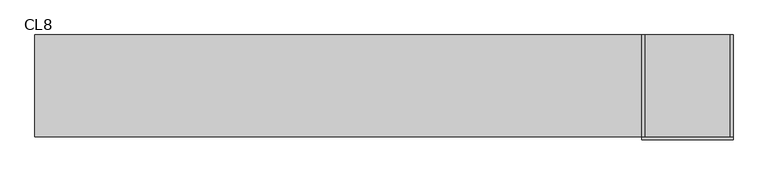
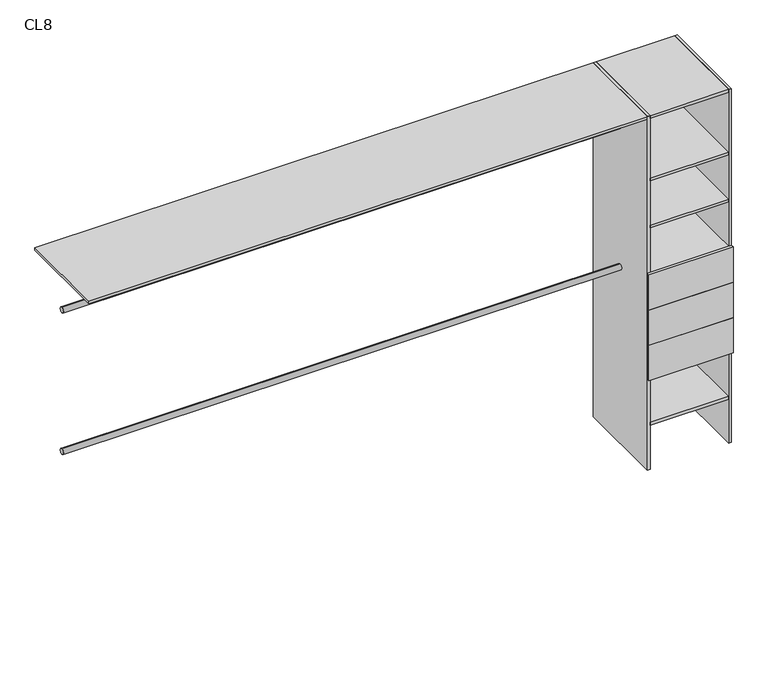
"""IFC4 building model written with IfcOpenShell, lengths in millimetres: furniture geometry, Closet 1estantes-1tubos_sin laterales : CL8."""

import ifcopenshell
import ifcopenshell.guid

model = None  # the IFC model being written
_history = None  # IfcOwnerHistory: only IFC2X3 demands one
_inside = {}  # id of a spatial element -> (the spatial element, [elements in it])
_under = {}  # id of a project, library or spatial element -> (it, [spatial elements below it])
_declared = {}  # id of a project -> (the project, [libraries it declares])
_typed = {}  # id of a type object -> (the type object, [elements of that type])
_made_of = {}  # id of a material, layer set ... -> (it, [elements and type objects made of it])


def new_model(schema):
    """Start an empty IFC model of exactly this schema.

    Asked for "IFC4X3", IfcOpenShell would pick the latest addendum, in which some entities
    have other attributes; the version numbers below select the first issue.
    IFC2X3 requires an IfcOwnerHistory on every rooted entity: one is made here for all.
    """
    global model, _history
    if schema == "IFC4X3":
        model = ifcopenshell.file(schema_version=(4, 3, 0, 0))
    else:
        model = ifcopenshell.file(schema=schema)
    _inside.clear()
    _under.clear()
    _declared.clear()
    _typed.clear()
    _made_of.clear()
    _history = None
    if model.schema == "IFC2X3":
        org = make("IfcOrganization", Name="unknown")
        user = make(
            "IfcPersonAndOrganization",
            ThePerson=make("IfcPerson", FamilyName="unknown"),
            TheOrganization=org,
        )
        app = make(
            "IfcApplication",
            ApplicationDeveloper=org,
            Version="unknown",
            ApplicationFullName="unknown",
            ApplicationIdentifier="unknown",
        )
        _history = make(
            "IfcOwnerHistory",
            OwningUser=user,
            OwningApplication=app,
            ChangeAction="ADDED",
            CreationDate=0,
        )
    return model


def make(cls, **values):
    """One entity of the class cls with the attributes given. An attribute that is None is left unset."""
    return model.create_entity(
        cls, **{name: value for name, value in values.items() if value is not None}
    )


def rooted(cls, **values):
    """An entity with a GlobalId (a new one), such as an element, a storey or a relation."""
    return make(cls, GlobalId=ifcopenshell.guid.new(), OwnerHistory=_history, **values)


def si_unit(unit_type, name, prefix=None):
    """IfcSIUnit, for example si_unit("LENGTHUNIT", "METRE", prefix="MILLI")."""
    return make("IfcSIUnit", UnitType=unit_type, Prefix=prefix, Name=name)


def assignment(units):
    """IfcUnitAssignment: the units of a project."""
    return None if units is None else make("IfcUnitAssignment", Units=units)


def point(xyz):
    """IfcCartesianPoint."""
    return None if xyz is None else make("IfcCartesianPoint", Coordinates=xyz)


def direction(xyz):
    """IfcDirection."""
    return None if xyz is None else make("IfcDirection", DirectionRatios=xyz)


def frame(location, z_axis=None, x_axis=None):
    """IfcAxis2Placement3D, a coordinate frame: its origin and axes. An axis left out is left unset."""
    return make(
        "IfcAxis2Placement3D",
        Location=point(location),
        Axis=direction(z_axis),
        RefDirection=direction(x_axis),
    )


def frame_2d(location, x_axis=None):
    """IfcAxis2Placement2D, a coordinate frame in the plane: its origin and x axis."""
    return make(
        "IfcAxis2Placement2D", Location=point(location), RefDirection=direction(x_axis)
    )


def origin():
    """The frame at (0, 0, 0) with its axes left unset."""
    return frame((0.0, 0.0, 0.0))


def origin_with_axes():
    """The frame at (0, 0, 0) with the z axis (0, 0, 1) and the x axis (1, 0, 0) written out."""
    return frame((0.0, 0.0, 0.0), z_axis=(0.0, 0.0, 1.0), x_axis=(1.0, 0.0, 0.0))


def place(relative_to, where):
    """IfcLocalPlacement: puts the frame where relative to a parent placement (None: the world)."""
    return make(
        "IfcLocalPlacement", PlacementRelTo=relative_to, RelativePlacement=where
    )


def context(
    kind, dimensions, precision=None, world=None, true_north=None, identifier=None
):
    """IfcGeometricRepresentationContext, for example the 3D "Model" context."""
    return make(
        "IfcGeometricRepresentationContext",
        ContextIdentifier=identifier,
        ContextType=kind,
        CoordinateSpaceDimension=dimensions,
        Precision=precision,
        WorldCoordinateSystem=world,
        TrueNorth=true_north,
    )


def project(units=None, contexts=None):
    """IfcProject with its units and contexts."""
    return rooted(
        "IfcProject",
        Name="project",
        RepresentationContexts=contexts,
        UnitsInContext=assignment(units),
    )


def spatial(cls, under=None, at=None, **own):
    """A site, building, storey or space (cls), placed at a placement, below another one or the project."""
    s = rooted(cls, ObjectPlacement=at, **own)
    if under is not None:
        _under.setdefault(under.id(), (under, []))[1].append(s)
    return s


def polyline(points):
    """IfcPolyline through the points."""
    return make("IfcPolyline", Points=[point(p) for p in points])


def circle_curve(where, radius):
    """IfcCircle in the frame where."""
    return make("IfcCircle", Position=where, Radius=radius)


def trimmed(basis, trim1, trim2, sense, master):
    """IfcTrimmedCurve: the piece of a basis curve between two trims."""
    return make(
        "IfcTrimmedCurve",
        BasisCurve=basis,
        Trim1=trim1,
        Trim2=trim2,
        SenseAgreement=sense,
        MasterRepresentation=master,
    )


def segment(curve, same_sense, transition):
    """IfcCompositeCurveSegment."""
    return make(
        "IfcCompositeCurveSegment",
        Transition=transition,
        SameSense=same_sense,
        ParentCurve=curve,
    )


def composite_curve(segments, self_intersect=None):
    """IfcCompositeCurve: segments joined end to end."""
    return make("IfcCompositeCurve", Segments=segments, SelfIntersect=self_intersect)


def outline(outer, holes=None, kind="AREA"):
    """IfcArbitraryClosedProfileDef: a profile drawn as a closed curve; with holes, ...WithVoids."""
    if holes is None:
        return make("IfcArbitraryClosedProfileDef", ProfileType=kind, OuterCurve=outer)
    return make(
        "IfcArbitraryProfileDefWithVoids",
        ProfileType=kind,
        OuterCurve=outer,
        InnerCurves=holes,
    )


def extrude(swept, where, along, depth):
    """IfcExtrudedAreaSolid: the profile swept, set in the frame where, extruded along a direction by depth."""
    return make(
        "IfcExtrudedAreaSolid",
        SweptArea=swept,
        Position=where,
        ExtrudedDirection=direction(along),
        Depth=depth,
    )


def shape(context_of_items, identifier, shape_type, items):
    """IfcShapeRepresentation: the items that make up one representation, for example the "Body"."""
    return make(
        "IfcShapeRepresentation",
        ContextOfItems=context_of_items,
        RepresentationIdentifier=identifier,
        RepresentationType=shape_type,
        Items=items,
    )


def source(mapping_origin, context_of_items, identifier, shape_type, items):
    """IfcRepresentationMap: a shape defined once, which mapped items show again and again."""
    return make(
        "IfcRepresentationMap",
        MappingOrigin=mapping_origin,
        MappedRepresentation=shape(context_of_items, identifier, shape_type, items),
    )


def transform(
    local_origin,
    x_axis=None,
    y_axis=None,
    z_axis=None,
    scale=None,
    scale2=None,
    scale3=None,
    uniform=True,
):
    """IfcCartesianTransformationOperator3D, or its non-uniform kind. x_axis, y_axis, z_axis: its Axis1, 2, 3."""
    if uniform:
        return make(
            "IfcCartesianTransformationOperator3D",
            Axis1=direction(x_axis),
            Axis2=direction(y_axis),
            LocalOrigin=point(local_origin),
            Scale=scale,
            Axis3=direction(z_axis),
        )
    return make(
        "IfcCartesianTransformationOperator3DnonUniform",
        Axis1=direction(x_axis),
        Axis2=direction(y_axis),
        LocalOrigin=point(local_origin),
        Scale=scale,
        Axis3=direction(z_axis),
        Scale2=scale2,
        Scale3=scale3,
    )


def mapped(mapping_source, mapping_target):
    """IfcMappedItem: shows the shape of a source again, moved by a transform."""
    return make(
        "IfcMappedItem", MappingSource=mapping_source, MappingTarget=mapping_target
    )


def made_of(thing, what):
    """Note that an element or type object is made of a material, layer set ...; save() writes the relation."""
    if what is not None:
        _made_of.setdefault(what.id(), (what, []))[1].append(thing)
    return thing


def element(
    cls,
    number,
    at=None,
    inside=None,
    cuts=None,
    type_object=None,
    material=None,
    context=None,
    identifier="Body",
    shape_type=None,
    held_by="IfcProductDefinitionShape",
    body=None,
    shapes=None,
    **own,
):
    """One element of the class cls, such as IfcWall. Its Tag is "e" and its number.

    at: its placement. inside: the storey or other place that contains it. cuts: it is an
    opening in that element (IfcRelVoidsElement). A single representation is given by context,
    identifier, shape_type and body (its items); several are given by shapes. held_by: the class
    of the entity that holds the representations. save() writes the other relations.
    """
    e = rooted(cls, Tag="e%d" % number, ObjectPlacement=at, **own)
    if body is not None:
        shapes = [shape(context, identifier, shape_type, body)]
    if shapes is not None:
        e.Representation = make(held_by, Representations=shapes)
    if inside is not None:
        _inside.setdefault(inside.id(), (inside, []))[1].append(e)
    if cuts is not None:
        rooted(
            "IfcRelVoidsElement", RelatingBuildingElement=cuts, RelatedOpeningElement=e
        )
    if type_object is not None:
        _typed.setdefault(type_object.id(), (type_object, []))[1].append(e)
    return made_of(e, material)


def aggregate(whole, parts):
    """IfcRelAggregates: a whole, such as a stair, and the parts it consists of."""
    return rooted("IfcRelAggregates", RelatingObject=whole, RelatedObjects=parts)


def save(model, path):
    """Write the relations noted so far, then the file.

    IfcRelAggregates (storeys below a building ...), IfcRelContainedInSpatialStructure (elements
    in a storey), IfcRelDefinesByType, IfcRelAssociatesMaterial and IfcRelDeclares: one each for
    every whole, place, type object, material and project.
    """
    for whole, parts in _under.values():
        aggregate(whole, parts)
    for where, things in _inside.values():
        rooted(
            "IfcRelContainedInSpatialStructure",
            RelatedElements=things,
            RelatingStructure=where,
        )
    for kind, things in _typed.values():
        rooted("IfcRelDefinesByType", RelatedObjects=things, RelatingType=kind)
    for what, things in _made_of.values():
        rooted("IfcRelAssociatesMaterial", RelatedObjects=things, RelatingMaterial=what)
    for by, libraries in _declared.values():
        rooted("IfcRelDeclares", RelatingContext=by, RelatedDefinitions=libraries)
    model.write(path)


def cl8_eb73d7d5(model_context):
    return source(origin(), model_context, "Body", "SweptSolid", [
        extrude(outline(polyline([(225.0, 100.0), (210.0, 100.0), (210.0, 600.0), (225.0, 600.0), (225.0, 100.0)])), origin_with_axes(), (0.0, 0.0, 1.0), 2000.0),
        extrude(outline(polyline([(-210.0, 100.0), (-225.0, 100.0), (-225.0, 600.0), (-210.0, 600.0), (-210.0, 100.0)])), origin_with_axes(), (0.0, 0.0, 1.0), 2000.0),
        extrude(outline(polyline([(225.0, 100.0), (225.0, 85.0), (-225.0, 85.0), (-225.0, 100.0), (225.0, 100.0)])), frame((0.0, 0.0, 915.0), z_axis=(0.0, 0.0, 1.0), x_axis=(1.0, 0.0, 0.0)), (0.0, 0.0, 1.0), 200.0),
        extrude(outline(polyline([(225.0, 100.0), (225.0, 85.0), (-225.0, 85.0), (-225.0, 100.0), (225.0, 100.0)])), frame((0.0, 0.0, 715.0), z_axis=(0.0, 0.0, 1.0), x_axis=(1.0, 0.0, 0.0)), (0.0, 0.0, 1.0), 200.0),
        extrude(outline(polyline([(225.0, 100.0), (225.0, 85.0), (-225.0, 85.0), (-225.0, 100.0), (225.0, 100.0)])), frame((0.0, 0.0, 515.0), z_axis=(0.0, 0.0, 1.0), x_axis=(1.0, 0.0, 0.0)), (0.0, 0.0, 1.0), 200.0),
        extrude(outline(polyline([(210.0, 100.0), (-210.0, 100.0), (-210.0, 600.0), (210.0, 600.0), (210.0, 100.0)])), frame((0.0, 0.0, 1100.0), z_axis=(0.0, 0.0, 1.0), x_axis=(1.0, 0.0, 0.0)), (0.0, 0.0, 1.0), 15.0),
        extrude(outline(composite_curve([segment(trimmed(circle_curve(frame_2d((350.0, 1000.0)), 15.0), [point((350.0, 1015.0))], [point((350.0, 985.0))], False, "CARTESIAN"), True, "CONTINUOUS"), segment(trimmed(circle_curve(frame_2d((350.0, 1000.0)), 15.0), [point((350.0, 985.0))], [point((350.0, 1015.0))], False, "CARTESIAN"), True, "CONTINUOUS")], self_intersect=False)), frame((-3210.0, 0.0, 0.0), z_axis=(1.0, 0.0, 0.0), x_axis=(0.0, 1.0, 0.0)), (0.0, 0.0, 1.0), 2985.0),
        extrude(outline(composite_curve([segment(trimmed(circle_curve(frame_2d((350.0, 1800.0)), 15.0), [point((350.0, 1815.0))], [point((350.0, 1785.0))], False, "CARTESIAN"), True, "CONTINUOUS"), segment(trimmed(circle_curve(frame_2d((350.0, 1800.0)), 15.0), [point((350.0, 1785.0))], [point((350.0, 1815.0))], False, "CARTESIAN"), True, "CONTINUOUS")], self_intersect=False)), frame((-3210.0, 0.0, 0.0), z_axis=(1.0, 0.0, 0.0), x_axis=(0.0, 1.0, 0.0)), (0.0, 0.0, 1.0), 2985.0),
        extrude(outline(polyline([(210.0, 100.0), (-210.0, 100.0), (-210.0, 600.0), (210.0, 600.0), (210.0, 100.0)])), frame((0.0, 0.0, 250.0), z_axis=(0.0, 0.0, 1.0), x_axis=(1.0, 0.0, 0.0)), (0.0, 0.0, 1.0), 15.0),
        extrude(outline(polyline([(210.0, 100.0), (-210.0, 100.0), (-210.0, 600.0), (210.0, 600.0), (210.0, 100.0)])), frame((0.0, 0.0, 515.0), z_axis=(0.0, 0.0, 1.0), x_axis=(1.0, 0.0, 0.0)), (0.0, 0.0, 1.0), 15.0),
        extrude(outline(polyline([(210.0, 100.0), (-210.0, 100.0), (-210.0, 600.0), (210.0, 600.0), (210.0, 100.0)])), frame((0.0, 0.0, 1365.0), z_axis=(0.0, 0.0, 1.0), x_axis=(1.0, 0.0, 0.0)), (0.0, 0.0, 1.0), 15.0),
        extrude(outline(polyline([(210.0, 100.0), (-210.0, 100.0), (-210.0, 600.0), (210.0, 600.0), (210.0, 100.0)])), frame((0.0, 0.0, 1630.0), z_axis=(0.0, 0.0, 1.0), x_axis=(1.0, 0.0, 0.0)), (0.0, 0.0, 1.0), 15.0),
        extrude(outline(polyline([(-210.0, 100.0), (-3210.0, 100.0), (-3210.0, 600.0), (-210.0, 600.0), (-210.0, 100.0)])), frame((0.0, 0.0, 1985.0), z_axis=(0.0, 0.0, 1.0), x_axis=(1.0, 0.0, 0.0)), (0.0, 0.0, 1.0), 15.0),
        extrude(outline(polyline([(210.0, 100.0), (-210.0, 100.0), (-210.0, 600.0), (210.0, 600.0), (210.0, 100.0)])), frame((0.0, 0.0, 1985.0), z_axis=(0.0, 0.0, 1.0), x_axis=(1.0, 0.0, 0.0)), (0.0, 0.0, 1.0), 15.0),
    ])


if __name__ == "__main__":
    model = new_model("IFC4")
    model_context = context("Model", 3, world=origin())
    ifc_project = project(units=[si_unit("LENGTHUNIT", "METRE", prefix="MILLI")], contexts=[model_context])
    site = spatial("IfcSite", under=ifc_project)
    building = spatial("IfcBuilding", under=site)
    placement = place(None, origin())
    cl8_shape = cl8_eb73d7d5(model_context)
    element("IfcFurniture", 1, ObjectType="Closet 1estantes-1tubos_sin laterales : CL8", at=placement, inside=building, context=model_context, shape_type="MappedRepresentation", body=[
        mapped(cl8_shape, transform((0.0, 0.0, 0.0), x_axis=(1.0, 0.0, 0.0), y_axis=(0.0, 1.0, 0.0), z_axis=(0.0, 0.0, 1.0))),
    ])
    save(model, "model.ifc")
